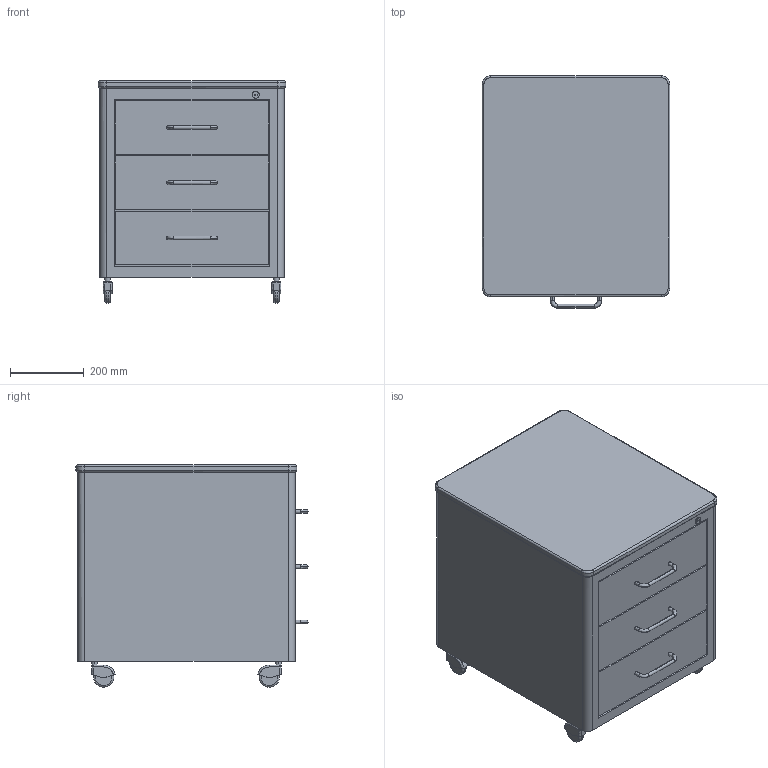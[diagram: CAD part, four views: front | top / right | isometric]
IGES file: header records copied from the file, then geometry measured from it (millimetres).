
Start section: Comment
Global section: file name: TB22-1.igs; native system:  By UGS Corp.; preprocessor: XPlus GENERIC/IGES 3.0; author: Author; organization: Title; date: 20140612.130416; units: inch
Bounding box: 510 x 630 x 604 mm (x, y, z)
Surface area: 1893042.4 mm2 (no closed solid volume)
Topology: 0 solids, 0 shells, 208 faces, 1040 edges, 1024 vertices
Faces by surface type: bspline 208
